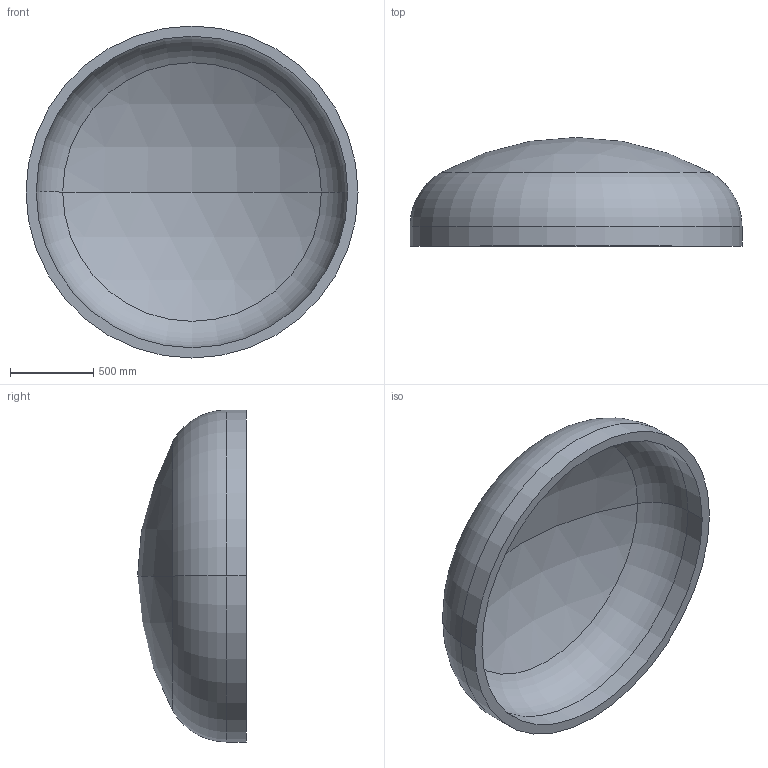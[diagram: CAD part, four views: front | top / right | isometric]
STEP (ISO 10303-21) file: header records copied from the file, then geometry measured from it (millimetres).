
FILE_DESCRIPTION (( 'STEP AP203' ), '1' );
FILE_NAME ('DIN 28013 Korbbogenform_-_Boden DIN 28013 - 2000 x 120 - I - s=62.step', '2016-07-01T14:00:06', ( '' ), ( '' ), 'SwSTEP 2.0', 'SolidWorks 2013', '' );
FILE_SCHEMA (( 'CONFIG_CONTROL_DESIGN' ));
Length unit declared in the file: millimetre
Products named in the file (1): DIN 28013 Korbbogenform_-_Boden DIN 28013 - 2000 x 120 - I - s=62
Bounding box: 2000 x 655.18 x 2000 mm (x, y, z)
Volume: 304703407.3 mm3; surface area: 10214671.3 mm2
Topology: 1 solids, 1 shells, 13 faces, 24 edges, 14 vertices
Faces by surface type: torus 4, cylinder 4, sphere 4, plane 1
Entity records: 407 total; most frequent: DIRECTION 72, CARTESIAN_POINT 52, ORIENTED_EDGE 48, AXIS2_PLACEMENT_3D 34, EDGE_CURVE 24, CIRCLE 20, EDGE_LOOP 14, VERTEX_POINT 14
